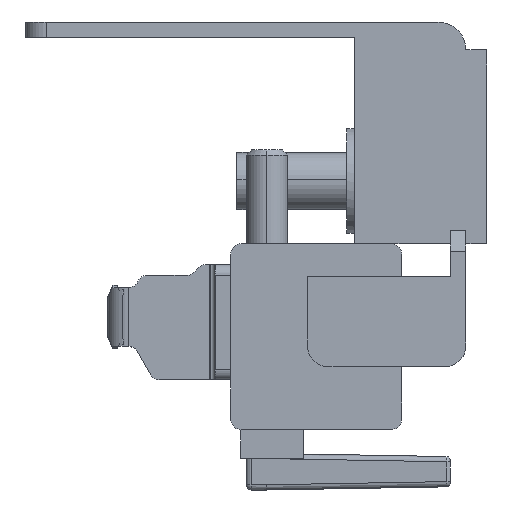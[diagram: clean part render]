
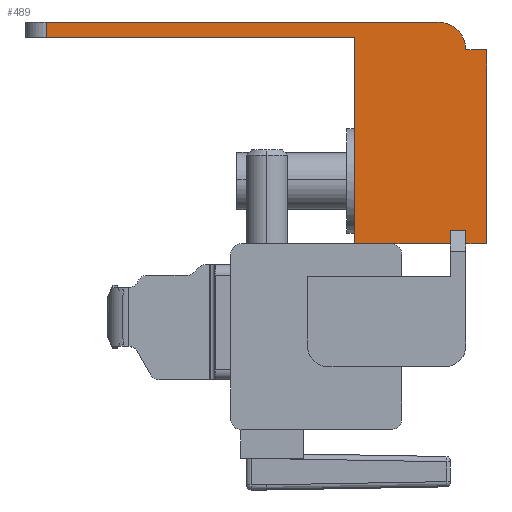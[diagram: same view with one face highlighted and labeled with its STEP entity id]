
A CAD part, left-side view. The second image highlights one B-rep face of the part: STEP entity #489.
In plain terms, the highlighted planar face has unit normal (-1, 0, 0).
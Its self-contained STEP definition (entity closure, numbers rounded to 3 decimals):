
#34 = VECTOR ( 'NONE', #4774, 1000. ) ;
#63 = VERTEX_POINT ( 'NONE', #3281 ) ;
#136 = CARTESIAN_POINT ( 'NONE',  ( -276., -30.333, 16.879 ) ) ;
#188 = LINE ( 'NONE', #292, #4532 ) ;
#282 = LINE ( 'NONE', #4933, #3516 ) ;
#292 = CARTESIAN_POINT ( 'NONE',  ( -276., -30.333, -1.651 ) ) ;
#296 = ORIENTED_EDGE ( 'NONE', *, *, #4799, .F. ) ;
#319 = CARTESIAN_POINT ( 'NONE',  ( -276., -26.863, -1.651 ) ) ;
#347 = DIRECTION ( 'NONE',  ( 0., 0., -1. ) ) ;
#411 = LINE ( 'NONE', #5474, #4616 ) ;
#441 = ORIENTED_EDGE ( 'NONE', *, *, #643, .F. ) ;
#489 = ADVANCED_FACE ( 'NONE', ( #3125 ), #1382, .F. ) ;
#592 = CARTESIAN_POINT ( 'NONE',  ( -276., -17.713, 18.079 ) ) ;
#643 = EDGE_CURVE ( 'NONE', #1560, #3141, #3177, .T. ) ;
#668 = VECTOR ( 'NONE', #5148, 1000. ) ;
#681 = LINE ( 'NONE', #4201, #2897 ) ;
#722 = VECTOR ( 'NONE', #4117, 1000. ) ;
#762 = CARTESIAN_POINT ( 'NONE',  ( -276., -26.863, -0.361 ) ) ;
#848 = EDGE_CURVE ( 'NONE', #3277, #2765, #1413, .T. ) ;
#1087 = EDGE_CURVE ( 'NONE', #5201, #2354, #282, .T. ) ;
#1200 = DIRECTION ( 'NONE',  ( -1., 0., 0. ) ) ;
#1215 = DIRECTION ( 'NONE',  ( 0., 0., -1. ) ) ;
#1238 = ORIENTED_EDGE ( 'NONE', *, *, #1444, .F. ) ;
#1290 = DIRECTION ( 'NONE',  ( 0., 1., 0. ) ) ;
#1314 = DIRECTION ( 'NONE',  ( 1., 0., 0. ) ) ;
#1339 = CARTESIAN_POINT ( 'NONE',  ( -276., -25.663, 16.879 ) ) ;
#1345 = CARTESIAN_POINT ( 'NONE',  ( -276., -29.063, 15.779 ) ) ;
#1382 = PLANE ( 'NONE',  #4968 ) ;
#1413 = LINE ( 'NONE', #3560, #34 ) ;
#1444 = EDGE_CURVE ( 'NONE', #3469, #2232, #681, .T. ) ;
#1494 = ORIENTED_EDGE ( 'NONE', *, *, #1989, .T. ) ;
#1546 = VERTEX_POINT ( 'NONE', #4879 ) ;
#1560 = VERTEX_POINT ( 'NONE', #2275 ) ;
#1578 = VECTOR ( 'NONE', #4254, 1000. ) ;
#1702 = CARTESIAN_POINT ( 'NONE',  ( -276., -17.713, -1.651 ) ) ;
#1779 = LINE ( 'NONE', #2286, #668 ) ;
#1834 = LINE ( 'NONE', #319, #722 ) ;
#1840 = VECTOR ( 'NONE', #2508, 1000. ) ;
#1869 = ORIENTED_EDGE ( 'NONE', *, *, #5407, .F. ) ;
#1961 = LINE ( 'NONE', #2086, #1840 ) ;
#1989 = EDGE_CURVE ( 'NONE', #3277, #2354, #411, .T. ) ;
#2067 = CARTESIAN_POINT ( 'NONE',  ( -276., 11.767, 19.549 ) ) ;
#2086 = CARTESIAN_POINT ( 'NONE',  ( -276., -17.713, -1.651 ) ) ;
#2232 = VERTEX_POINT ( 'NONE', #3823 ) ;
#2275 = CARTESIAN_POINT ( 'NONE',  ( -276., -28.333, -1.651 ) ) ;
#2278 = ORIENTED_EDGE ( 'NONE', *, *, #4172, .F. ) ;
#2286 = CARTESIAN_POINT ( 'NONE',  ( -276., -30.333, 16.879 ) ) ;
#2314 = EDGE_CURVE ( 'NONE', #4989, #2765, #4160, .T. ) ;
#2353 = EDGE_CURVE ( 'NONE', #3469, #4989, #1779, .T. ) ;
#2354 = VERTEX_POINT ( 'NONE', #3046 ) ;
#2426 = DIRECTION ( 'NONE',  ( 0., 1., 0. ) ) ;
#2508 = DIRECTION ( 'NONE',  ( 0., 0., 1. ) ) ;
#2515 = CARTESIAN_POINT ( 'NONE',  ( -276., -28.333, 16.879 ) ) ;
#2733 = AXIS2_PLACEMENT_3D ( 'NONE', #1339, #1200, #1215 ) ;
#2765 = VERTEX_POINT ( 'NONE', #4492 ) ;
#2858 = ORIENTED_EDGE ( 'NONE', *, *, #848, .F. ) ;
#2897 = VECTOR ( 'NONE', #4055, 1000. ) ;
#2991 = EDGE_CURVE ( 'NONE', #1546, #4336, #3827, .T. ) ;
#3033 = LINE ( 'NONE', #762, #5149 ) ;
#3046 = CARTESIAN_POINT ( 'NONE',  ( -276., 11.767, 18.079 ) ) ;
#3125 = FACE_OUTER_BOUND ( 'NONE', #3269, .T. ) ;
#3141 = VERTEX_POINT ( 'NONE', #4535 ) ;
#3171 = EDGE_CURVE ( 'NONE', #3141, #63, #3033, .T. ) ;
#3177 = LINE ( 'NONE', #5157, #5307 ) ;
#3269 = EDGE_LOOP ( 'NONE', ( #2278, #3842, #296, #5066, #441, #1869, #1238, #5452, #4017, #2858, #1494, #3886 ) ) ;
#3277 = VERTEX_POINT ( 'NONE', #2067 ) ;
#3281 = CARTESIAN_POINT ( 'NONE',  ( -276., -26.863, -0.361 ) ) ;
#3469 = VERTEX_POINT ( 'NONE', #136 ) ;
#3516 = VECTOR ( 'NONE', #4063, 1000. ) ;
#3560 = CARTESIAN_POINT ( 'NONE',  ( -276., 14.667, 19.549 ) ) ;
#3823 = CARTESIAN_POINT ( 'NONE',  ( -276., -30.333, -1.651 ) ) ;
#3827 = LINE ( 'NONE', #1702, #1578 ) ;
#3842 = ORIENTED_EDGE ( 'NONE', *, *, #2991, .T. ) ;
#3886 = ORIENTED_EDGE ( 'NONE', *, *, #1087, .F. ) ;
#4017 = ORIENTED_EDGE ( 'NONE', *, *, #2314, .T. ) ;
#4055 = DIRECTION ( 'NONE',  ( 0., 0., -1. ) ) ;
#4063 = DIRECTION ( 'NONE',  ( 0., 1., 0. ) ) ;
#4117 = DIRECTION ( 'NONE',  ( 0., 0., -1. ) ) ;
#4160 = CIRCLE ( 'NONE', #2733, 2.67 ) ;
#4172 = EDGE_CURVE ( 'NONE', #1546, #5201, #1961, .T. ) ;
#4201 = CARTESIAN_POINT ( 'NONE',  ( -276., -30.333, 16.879 ) ) ;
#4254 = DIRECTION ( 'NONE',  ( 0., -1., 0. ) ) ;
#4336 = VERTEX_POINT ( 'NONE', #5057 ) ;
#4492 = CARTESIAN_POINT ( 'NONE',  ( -276., -25.663, 19.549 ) ) ;
#4532 = VECTOR ( 'NONE', #5356, 1000. ) ;
#4535 = CARTESIAN_POINT ( 'NONE',  ( -276., -28.333, -0.361 ) ) ;
#4616 = VECTOR ( 'NONE', #347, 1000. ) ;
#4774 = DIRECTION ( 'NONE',  ( 0., -1., 0. ) ) ;
#4799 = EDGE_CURVE ( 'NONE', #63, #4336, #1834, .T. ) ;
#4879 = CARTESIAN_POINT ( 'NONE',  ( -276., -17.713, -1.651 ) ) ;
#4933 = CARTESIAN_POINT ( 'NONE',  ( -276., -29.063, 18.079 ) ) ;
#4968 = AXIS2_PLACEMENT_3D ( 'NONE', #1345, #1314, #1290 ) ;
#4989 = VERTEX_POINT ( 'NONE', #2515 ) ;
#5057 = CARTESIAN_POINT ( 'NONE',  ( -276., -26.863, -1.651 ) ) ;
#5066 = ORIENTED_EDGE ( 'NONE', *, *, #3171, .F. ) ;
#5136 = DIRECTION ( 'NONE',  ( 0., 0., 1. ) ) ;
#5148 = DIRECTION ( 'NONE',  ( 0., 1., 0. ) ) ;
#5149 = VECTOR ( 'NONE', #2426, 1000. ) ;
#5157 = CARTESIAN_POINT ( 'NONE',  ( -276., -28.333, -1.651 ) ) ;
#5201 = VERTEX_POINT ( 'NONE', #592 ) ;
#5307 = VECTOR ( 'NONE', #5136, 1000. ) ;
#5356 = DIRECTION ( 'NONE',  ( 0., 1., 0. ) ) ;
#5407 = EDGE_CURVE ( 'NONE', #2232, #1560, #188, .T. ) ;
#5452 = ORIENTED_EDGE ( 'NONE', *, *, #2353, .T. ) ;
#5474 = CARTESIAN_POINT ( 'NONE',  ( -276., 11.767, 17.779 ) ) ;
